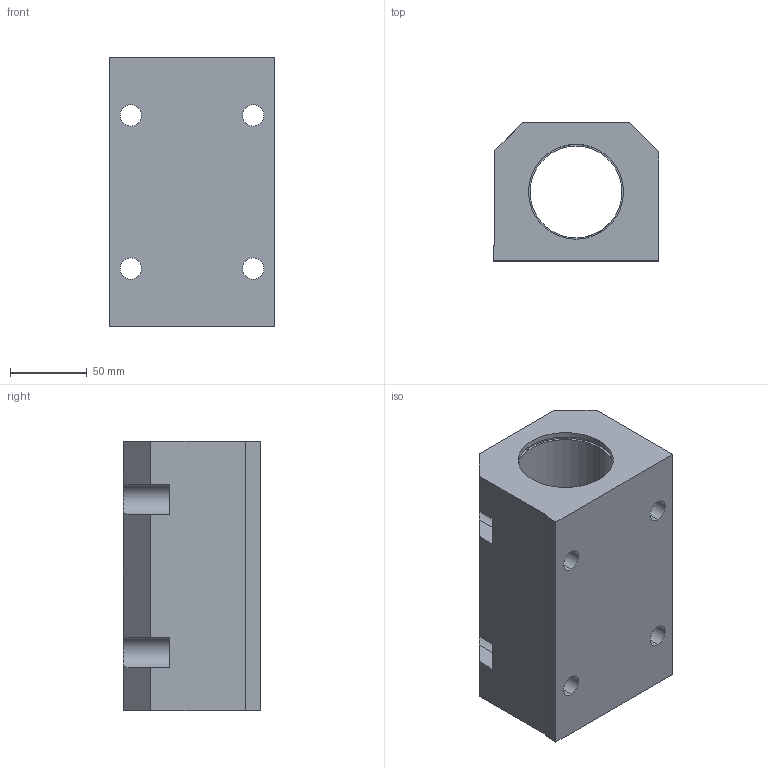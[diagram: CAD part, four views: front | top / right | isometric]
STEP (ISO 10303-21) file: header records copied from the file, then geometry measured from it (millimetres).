
FILE_DESCRIPTION (( 'STEP AP214' ), '1' );
FILE_NAME ('KTG85-I-40.step', '2020-03-04T13:31:10', ( '' ), ( '' ), 'SwSTEP 2.0', 'SolidWorks 2019', '' );
FILE_SCHEMA (( 'AUTOMOTIVE_DESIGN' ));
Length unit declared in the file: millimetre
Products named in the file (1): KTG85-I-40
Bounding box: 108 x 90 x 176 mm (x, y, z)
Volume: 1029231.5 mm3; surface area: 128325.1 mm2
Topology: 1 solids, 1 shells, 64 faces, 164 edges, 108 vertices
Faces by surface type: plane 32, cylinder 30, cone 2
Entity records: 2176 total; most frequent: CARTESIAN_POINT 419, DIRECTION 342, ORIENTED_EDGE 328, EDGE_CURVE 164, AXIS2_PLACEMENT_3D 123, VERTEX_POINT 108, VECTOR 96, LINE 96
